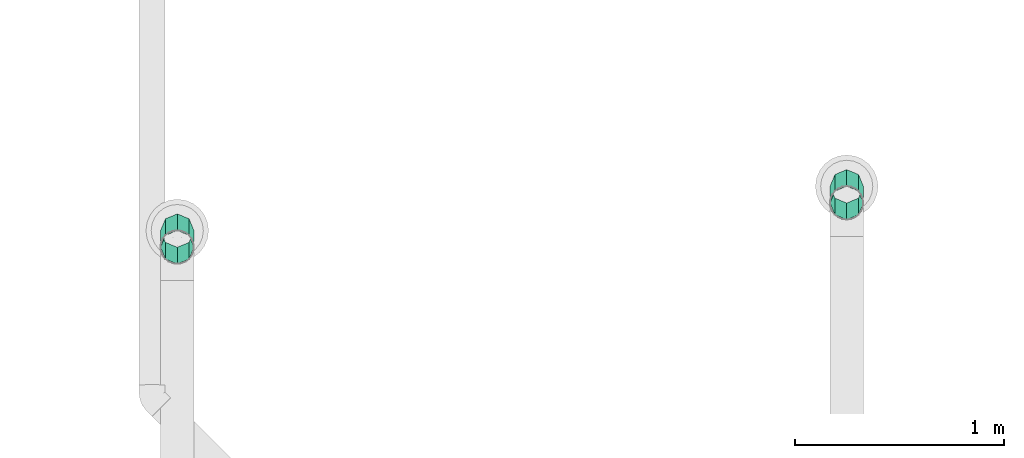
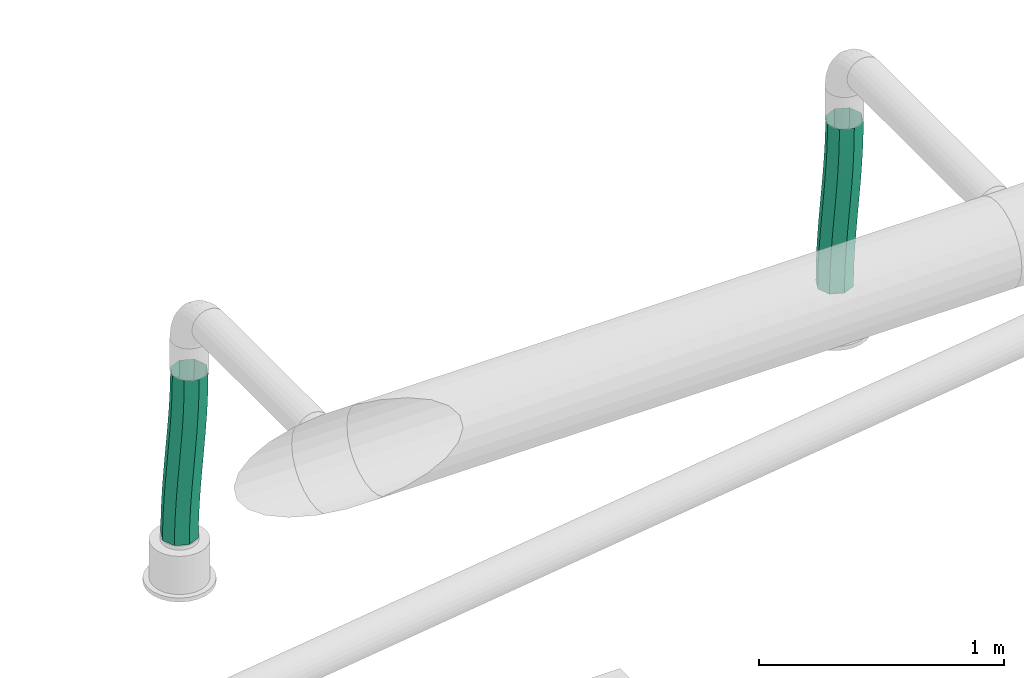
# One storey, part 307 of 374: 2 flow segments.
"""IFC2X3 building model written with IfcOpenShell, lengths in metres."""

from ifc_helpers import new_model, si_unit, direction, origin, place, context, subcontext, project, spatial, open_shell, surface_model, source, transform, mapped, element, save


model = new_model("IFC2X3")

# Units and contexts
model_context = context("Model", 3, precision=1e-05, world=origin(), true_north=direction((-0.4480736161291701, 0.8939966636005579)))
body_context = subcontext(model_context, "Body", "Model", "MODEL_VIEW")
ifc_project = project(units=[si_unit("LENGTHUNIT", "METRE"), si_unit("AREAUNIT", "SQUARE_METRE"), si_unit("VOLUMEUNIT", "CUBIC_METRE"), si_unit("PLANEANGLEUNIT", "RADIAN"), si_unit("THERMODYNAMICTEMPERATUREUNIT", "KELVIN"), si_unit("MASSUNIT", "GRAM", prefix="KILO"), si_unit("TIMEUNIT", "SECOND")], contexts=[model_context])

# Site, building, storey
site_placement = place(None, origin())
site = spatial("IfcSite", under=ifc_project, at=site_placement, Name="Site 1", CompositionType="ELEMENT")
building_placement = place(site_placement, origin())
building = spatial("IfcBuilding", under=site, at=building_placement, Name="Undefined", CompositionType="ELEMENT")
storey_placement = place(building_placement, origin())
storey = spatial("IfcBuildingStorey", under=building, at=storey_placement, Name="Rez de chauss\x8ee", CompositionType="ELEMENT", Elevation=0.0)

# Flow segments
shared_shape_1 = source(origin(), body_context, "Body", "SurfaceModel", [
    surface_model("IfcFaceBasedSurfaceModel", [(0.09425708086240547, 0.0, -3.552713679e-15), (0.05356602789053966, 0.04575228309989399, 0.0), (0.0, 0.0, 0.0), (0.03894014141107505, -0.047251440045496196, -1.150722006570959e-06), (-0.05541274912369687, -0.044041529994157, 0.0010358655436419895), (-0.01799366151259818, -0.09250640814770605, 0.0010617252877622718), (-0.11243305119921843, -0.08679099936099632, 0.002911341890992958), (-0.0762209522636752, -0.1361641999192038, 0.002975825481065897), (-0.17075715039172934, -0.12862218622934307, 0.005426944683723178), (-0.13541835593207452, -0.17862411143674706, 0.005528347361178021), (-0.23007333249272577, -0.1699145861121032, 0.008379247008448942), (-0.19526249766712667, -0.22028543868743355, 0.00850648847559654), (-0.290064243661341, -0.21105506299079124, 0.011560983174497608), (-0.25543000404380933, -0.26154747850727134, 0.011697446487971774), (-0.35040835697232, -0.25243868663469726, 0.014761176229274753), (-0.31559751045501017, -0.30280953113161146, 0.01488841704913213), (-0.4107804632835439, -0.294468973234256, 0.017765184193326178), (-0.37544165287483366, -0.3444708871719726, 0.017866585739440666), (-0.4708511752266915, -0.33755764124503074, 0.020354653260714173), (-0.43463906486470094, -0.38693083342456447, 0.020419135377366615), (-0.5302854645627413, -0.3821237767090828, 0.02230739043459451), (-0.4928663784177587, -0.43058865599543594, 0.022333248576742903), (-0.5887403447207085, -0.4285921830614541, 0.023397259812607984), (-0.5498002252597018, -0.4758436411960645, 0.023396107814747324), (-0.6458082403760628, -0.4773427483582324, 0.0233948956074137), (-0.6051172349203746, -0.5230950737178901, 0.02339489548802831), (0.0250615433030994, 0.07834277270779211, -0.04329419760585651), (-0.027779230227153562, 0.03321146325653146, -0.043293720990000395), (-0.0825619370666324, -0.010327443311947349, -0.04226904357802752), (-0.13908228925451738, -0.05270067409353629, -0.040409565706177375), (-0.19704465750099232, -0.09427143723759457, -0.037909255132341), (-0.2561421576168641, -0.13541102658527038, -0.034967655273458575), (-0.3160599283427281, -0.17650115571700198, -0.03178973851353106), (-0.3764771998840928, -0.21793513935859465, -0.028585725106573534), (-0.4370679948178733, -0.2601182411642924, -0.025571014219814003), (-0.49750043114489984, -0.30346732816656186, -0.022966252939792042), (-0.5574346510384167, -0.34840968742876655, -0.020997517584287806), (-0.616519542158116, -0.3953806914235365, -0.019896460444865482), (-0.674312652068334, -0.44475219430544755, -0.01989930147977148), (0.025441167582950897, 0.0786804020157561, -0.10452143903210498), (-0.02812485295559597, 0.032928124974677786, -0.10452143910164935), (-0.0835375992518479, -0.01111340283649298, -0.10348557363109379), (-0.14055790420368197, -0.05386287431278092, -0.10161009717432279), (-0.19888201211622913, -0.09569406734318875, -0.09909449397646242), (-0.2581982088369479, -0.1369864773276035, -0.09614219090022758), (-0.3181891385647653, -0.17812696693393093, -0.09296045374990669), (-0.37853326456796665, -0.21951059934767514, -0.08976026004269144), (-0.43890536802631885, -0.261540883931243, -0.08675625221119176), (-0.4989760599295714, -0.3046295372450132, -0.08416678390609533), (-0.5584103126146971, -0.349195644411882, -0.08221404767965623), (-0.6168651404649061, -0.39566400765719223, -0.081124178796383), (-0.6739329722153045, -0.44441451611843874, -0.08112654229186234), (0.05448252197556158, 0.04656739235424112, -0.1478156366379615), (-0.0008344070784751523, -0.0006840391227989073, -0.14781678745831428), (-0.05776820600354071, -0.045939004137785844, -0.14675391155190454), (-0.11599550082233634, -0.08959679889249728, -0.14483981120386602), (-0.17519291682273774, -0.13205671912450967, -0.1422872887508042), (-0.23503707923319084, -0.1737180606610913, -0.13930914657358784), (-0.29520461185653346, -0.21498011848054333, -0.13611818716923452), (-0.3553721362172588, -0.25624218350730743, -0.13292721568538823), (-0.41521627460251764, -0.29790353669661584, -0.12994904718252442), (-0.474413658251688, -0.3403634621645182, -0.12739649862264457), (-0.5326409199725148, -0.3840212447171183, -0.1254823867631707), (-0.5895746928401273, -0.4292761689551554, -0.1244195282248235), (-0.6448916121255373, -0.47652752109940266, -0.12442073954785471), (0.09517357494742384, 0.000815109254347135, -0.14781563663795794), (0.03810573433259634, -0.047935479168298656, -0.1478179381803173), (-0.02034911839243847, -0.09440388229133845, -0.14672805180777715), (-0.07978340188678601, -0.13896999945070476, -0.14477532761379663), (-0.13985412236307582, -0.18205864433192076, -0.14218588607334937), (-0.20022624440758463, -0.22408891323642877, -0.13918190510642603), (-0.26057037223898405, -0.26547253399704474, -0.1359817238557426), (-0.32056128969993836, -0.3066130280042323, -0.1327999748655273), (-0.37987746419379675, -0.3479054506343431, -0.12984764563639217), (-0.4382015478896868, -0.3897366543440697, -0.12733201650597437), (-0.49522183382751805, -0.4324861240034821, -0.12545652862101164), (-0.5506345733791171, -0.4765276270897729, -0.12442068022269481), (-0.604200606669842, -0.5222798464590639, -0.12442073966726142), (0.12367805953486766, -0.031775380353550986, -0.10452143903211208), (0.0658849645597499, -0.08114694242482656, -0.10452421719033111), (0.006800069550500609, -0.12811796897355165, -0.1034231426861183), (-0.053134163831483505, -0.1730603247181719, -0.10145442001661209), (-0.11356661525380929, -0.21640939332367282, -0.09884968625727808), (-0.17415741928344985, -0.25859247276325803, -0.0958350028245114), (-0.23457468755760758, -0.3000264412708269, -0.09263100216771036), (-0.29449244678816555, -0.34111657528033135, -0.08945307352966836), (-0.3535899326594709, -0.3822561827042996, -0.0865114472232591), (-0.41155229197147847, -0.42382696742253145, -0.08401111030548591), (-0.4680726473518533, -0.46620021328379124, -0.08215162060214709), (-0.5228553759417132, -0.5097391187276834, -0.08112695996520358), (-0.5756961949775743, -0.5548704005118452, -0.08112654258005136), (0.12329843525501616, -0.03211300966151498, -0.04329419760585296), (0.06623058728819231, -0.08086360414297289, -0.043296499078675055), (0.007775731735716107, -0.12733200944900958, -0.042206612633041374), (-0.051658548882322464, -0.17189812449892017, -0.04025388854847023), (-0.11172926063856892, -0.21498676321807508, -0.03766444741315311), (-0.17210136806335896, -0.257017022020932, -0.03466046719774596), (-0.23244547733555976, -0.2984006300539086, -0.03146028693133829), (-0.2924363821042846, -0.3395411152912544, -0.028278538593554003), (-0.3517525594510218, -0.38083353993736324, -0.025326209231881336), (-0.41007666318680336, -0.42266475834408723, -0.022810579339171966), (-0.46709698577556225, -0.46541425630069, -0.020935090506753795), (-0.5225097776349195, -0.5094558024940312, -0.01989924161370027), (-0.5760758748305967, -0.5552080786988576, -0.019899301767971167)], [open_shell([[[0, 1, 2]], [[2, 3, 0]], [[3, 2, 4]], [[4, 5, 3]], [[5, 4, 6]], [[6, 7, 5]], [[7, 6, 8]], [[8, 9, 7]], [[9, 8, 10]], [[10, 11, 9]], [[11, 10, 12]], [[12, 13, 11]], [[13, 12, 14]], [[14, 15, 13]], [[15, 14, 16]], [[16, 17, 15]], [[17, 16, 18]], [[18, 19, 17]], [[19, 18, 20]], [[20, 21, 19]], [[21, 20, 22]], [[22, 23, 21]], [[23, 22, 24]], [[24, 25, 23]], [[1, 26, 27]], [[27, 2, 1]], [[2, 27, 28]], [[28, 4, 2]], [[4, 28, 29]], [[29, 6, 4]], [[6, 29, 30]], [[30, 8, 6]], [[8, 30, 31]], [[31, 10, 8]], [[10, 31, 32]], [[32, 12, 10]], [[12, 32, 33]], [[33, 14, 12]], [[14, 33, 34]], [[34, 16, 14]], [[16, 34, 35]], [[35, 18, 16]], [[18, 35, 36]], [[36, 20, 18]], [[20, 36, 37]], [[37, 22, 20]], [[22, 37, 38]], [[38, 24, 22]], [[26, 39, 40]], [[40, 27, 26]], [[27, 40, 41]], [[41, 28, 27]], [[28, 41, 42]], [[42, 29, 28]], [[29, 42, 43]], [[43, 30, 29]], [[30, 43, 44]], [[44, 31, 30]], [[31, 44, 45]], [[45, 32, 31]], [[32, 45, 46]], [[46, 33, 32]], [[33, 46, 47]], [[47, 34, 33]], [[34, 47, 48]], [[48, 35, 34]], [[35, 48, 49]], [[49, 36, 35]], [[36, 49, 50]], [[50, 37, 36]], [[37, 50, 51]], [[51, 38, 37]], [[39, 52, 53]], [[53, 40, 39]], [[40, 53, 54]], [[54, 41, 40]], [[41, 54, 55]], [[55, 42, 41]], [[42, 55, 56]], [[56, 43, 42]], [[43, 56, 57]], [[57, 44, 43]], [[44, 57, 58]], [[58, 45, 44]], [[45, 58, 59]], [[59, 46, 45]], [[46, 59, 60]], [[60, 47, 46]], [[47, 60, 61]], [[61, 48, 47]], [[48, 61, 62]], [[62, 49, 48]], [[49, 62, 63]], [[63, 50, 49]], [[50, 63, 64]], [[64, 51, 50]], [[52, 65, 66]], [[66, 53, 52]], [[53, 66, 67]], [[67, 54, 53]], [[54, 67, 68]], [[68, 55, 54]], [[55, 68, 69]], [[69, 56, 55]], [[56, 69, 70]], [[70, 57, 56]], [[57, 70, 71]], [[71, 58, 57]], [[58, 71, 72]], [[72, 59, 58]], [[59, 72, 73]], [[73, 60, 59]], [[60, 73, 74]], [[74, 61, 60]], [[61, 74, 75]], [[75, 62, 61]], [[62, 75, 76]], [[76, 63, 62]], [[63, 76, 77]], [[77, 64, 63]], [[65, 78, 79]], [[79, 66, 65]], [[66, 79, 80]], [[80, 67, 66]], [[67, 80, 81]], [[81, 68, 67]], [[68, 81, 82]], [[82, 69, 68]], [[69, 82, 83]], [[83, 70, 69]], [[70, 83, 84]], [[84, 71, 70]], [[71, 84, 85]], [[85, 72, 71]], [[72, 85, 86]], [[86, 73, 72]], [[73, 86, 87]], [[87, 74, 73]], [[74, 87, 88]], [[88, 75, 74]], [[75, 88, 89]], [[89, 76, 75]], [[76, 89, 90]], [[90, 77, 76]], [[78, 91, 92]], [[92, 79, 78]], [[79, 92, 93]], [[93, 80, 79]], [[80, 93, 94]], [[94, 81, 80]], [[81, 94, 95]], [[95, 82, 81]], [[82, 95, 96]], [[96, 83, 82]], [[83, 96, 97]], [[97, 84, 83]], [[84, 97, 98]], [[98, 85, 84]], [[85, 98, 99]], [[99, 86, 85]], [[86, 99, 100]], [[100, 87, 86]], [[87, 100, 101]], [[101, 88, 87]], [[88, 101, 102]], [[102, 89, 88]], [[89, 102, 103]], [[103, 90, 89]], [[91, 0, 3]], [[3, 92, 91]], [[92, 3, 5]], [[5, 93, 92]], [[93, 5, 7]], [[7, 94, 93]], [[94, 7, 9]], [[9, 95, 94]], [[95, 9, 11]], [[11, 96, 95]], [[96, 11, 13]], [[13, 97, 96]], [[97, 13, 15]], [[15, 98, 97]], [[98, 15, 17]], [[17, 99, 98]], [[99, 17, 19]], [[19, 100, 99]], [[100, 19, 21]], [[21, 101, 100]], [[101, 21, 23]], [[23, 102, 101]], [[102, 23, 25]], [[25, 103, 102]]])]),
])
flow_segment_1_placement = place(storey_placement, origin())
element("IfcFlowSegment", 1, at=flow_segment_1_placement, inside=storey, Name="Tube flexible", ObjectType="Tube flexible", context=body_context, shape_type="MappedRepresentation", body=[
    mapped(shared_shape_1, transform((38.23672092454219, 21.844983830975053, 3.4095708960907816), x_axis=(-0.2485909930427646, -0.6163532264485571, 0.7472022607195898), y_axis=(0.2910462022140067, 0.6882384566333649, 0.6645449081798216), z_axis=(-0.9238477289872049, 0.38267025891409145, 0.008297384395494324))),
])
shared_shape_2 = source(origin(), body_context, "Body", "SurfaceModel", [
    surface_model("IfcFaceBasedSurfaceModel", [(0.09425708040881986, -3.552713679e-15, 3.552713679e-15), (0.05356602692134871, 0.04575228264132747, -3.552713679e-15), (0.0, 0.0, 0.0), (0.03894014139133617, -0.04725144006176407, -1.150730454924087e-06), (-0.05541274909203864, -0.04404152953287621, 0.0010358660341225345), (-0.01799366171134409, -0.09250640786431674, 0.0010617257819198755), (-0.11243305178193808, -0.0867909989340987, 0.0029113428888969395), (-0.07622095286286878, -0.13616419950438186, 0.0029758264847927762), (-0.1707571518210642, -0.12862218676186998, 0.005426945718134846), (-0.13541835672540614, -0.17862411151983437, 0.005528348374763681), (-0.23007333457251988, -0.16991458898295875, 0.008379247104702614), (-0.19526249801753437, -0.22028544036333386, 0.008506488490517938), (-0.2900642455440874, -0.21105506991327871, 0.011560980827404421), (-0.2554300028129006, -0.2615474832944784, 0.01169744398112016), (-0.3504083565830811, -0.25243869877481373, 0.014761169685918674), (-0.31559750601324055, -0.3028095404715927, 0.014888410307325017), (-0.4107804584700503, -0.29446898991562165, 0.017765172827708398), (-0.3754416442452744, -0.3444709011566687, 0.017866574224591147), (-0.47085116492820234, -0.33755766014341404, 0.020354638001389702), (-0.4346390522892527, -0.386930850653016, 0.020419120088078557), (-0.5302854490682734, -0.3821237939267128, 0.02230737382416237), (-0.4928663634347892, -0.4305886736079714, 0.022333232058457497), (-0.5887403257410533, -0.42859219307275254, 0.023397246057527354), (-0.549800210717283, -0.4758436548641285, 0.023396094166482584), (-0.645808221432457, -0.4773427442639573, 0.02339489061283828), (-0.6051172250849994, -0.5230950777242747, 0.023394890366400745), (0.025061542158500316, 0.07834277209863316, -0.043294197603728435), (-0.027779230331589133, 0.03321146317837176, -0.04329372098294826), (-0.08256193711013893, -0.01032744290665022, -0.04226904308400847), (-0.1390822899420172, -0.05270067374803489, -0.04040956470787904), (-0.19704465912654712, -0.0942714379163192, -0.037909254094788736), (-0.25614216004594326, -0.13541102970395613, -0.03496765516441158), (-0.3160599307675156, -0.1765011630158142, -0.031789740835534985), (-0.3764772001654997, -0.21793515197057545, -0.02858573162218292), (-0.43706799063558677, -0.260118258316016, -0.02557102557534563), (-0.49750042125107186, -0.30346734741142, -0.022966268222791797), (-0.5574346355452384, -0.34840970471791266, -0.020997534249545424), (-0.616519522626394, -0.39538070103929, -0.01989647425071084), (-0.6743126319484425, -0.44475218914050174, -0.01989930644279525), (0.025441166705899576, 0.07868040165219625, -0.10452143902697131), (-0.028124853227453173, 0.03292812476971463, -0.104521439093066), (-0.0835375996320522, -0.01111340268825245, -0.10348557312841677), (-0.14055790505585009, -0.053862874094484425, -0.10161009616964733), (-0.1988820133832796, -0.09569406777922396, -0.0990944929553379), (-0.2581982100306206, -0.13698647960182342, -0.09614219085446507), (-0.31818913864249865, -0.1781269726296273, -0.09296045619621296), (-0.3785332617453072, -0.2195106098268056, -0.08976026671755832), (-0.43890536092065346, -0.2615408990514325, -0.08675626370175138), (-0.49897604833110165, -0.3046295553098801, -0.08416679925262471), (-0.5584102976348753, -0.34919566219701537, -0.08221406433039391), (-0.6168651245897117, -0.39566402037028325, -0.08112419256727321), (-0.6739329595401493, -0.44441451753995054, -0.08112654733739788), (0.05448252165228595, 0.046567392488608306, -0.14781563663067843), (-0.0008344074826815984, -0.0006840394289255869, -0.1478167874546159), (-0.05776820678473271, -0.04593900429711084, -0.1467539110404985), (-0.11599550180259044, -0.08959679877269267, -0.14483981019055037), (-0.1751929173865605, -0.13205671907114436, -0.14228728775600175), (-0.23503707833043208, -0.17371806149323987, -0.13930914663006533), (-0.2952046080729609, -0.214980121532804, -0.13611818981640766), (-0.3553721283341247, -0.2562421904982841, -0.13292722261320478), (-0.41521626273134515, -0.2979035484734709, -0.1299490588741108), (-0.4744136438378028, -0.34036347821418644, -0.1273965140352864), (-0.532640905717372, -0.3840212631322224, -0.1254824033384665), (-0.5895746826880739, -0.4292761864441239, -0.12441954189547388), (-0.6448916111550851, -0.4765275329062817, -0.1244207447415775), (0.09517357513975, 0.0008151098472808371, -0.14781563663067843), (0.03810573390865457, -0.04793547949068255, -0.14781793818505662), (-0.020349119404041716, -0.09440388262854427, -0.14672805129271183), (-0.07978340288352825, -0.13896999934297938, -0.14477532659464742), (-0.13985412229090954, -0.1820586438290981, -0.14218588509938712), (-0.20022624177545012, -0.224088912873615, -0.13918190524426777), (-0.2605703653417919, -0.2654725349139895, -0.1359817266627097), (-0.32056127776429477, -0.3066130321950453, -0.1327999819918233), (-0.3798774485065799, -0.34790545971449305, -0.12984765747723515), (-0.43820153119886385, -0.3897366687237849, -0.12733203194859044), (-0.4952218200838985, -0.43248614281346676, -0.1254565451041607), (-0.5506345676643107, -0.4765276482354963, -0.12442069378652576), (-0.6042006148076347, -0.5222798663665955, -0.12442074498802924), (0.12367805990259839, -0.031775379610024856, -0.10452143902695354), (0.0658849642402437, -0.08114694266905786, -0.10452421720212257), (0.006800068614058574, -0.12811796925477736, -0.10342314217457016), (-0.05313416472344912, -0.17306032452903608, -0.10145441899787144), (-0.11356661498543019, -0.21640939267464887, -0.09884968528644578), (-0.1741574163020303, -0.2585924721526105, -0.09583500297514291), (-0.23457468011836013, -0.300026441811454, -0.09263100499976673), (-0.29449243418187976, -0.34111657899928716, -0.0894530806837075), (-0.35358991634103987, -0.3822561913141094, -0.08651145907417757), (-0.4115522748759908, -0.42382698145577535, -0.0840111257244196), (-0.4680726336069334, -0.4662002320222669, -0.08215163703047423), (-0.5228553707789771, -0.5097391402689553, -0.08112697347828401), (-0.5756962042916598, -0.5548704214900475, -0.08112654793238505), (0.12329843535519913, -0.0321130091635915, -0.04329419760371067), (0.0662305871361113, -0.08086360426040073, -0.04329649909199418), (0.007775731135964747, -0.12733200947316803, -0.04220661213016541), (-0.0516585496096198, -0.17189812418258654, -0.04025388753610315), (-0.11172926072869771, -0.21498676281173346, -0.03766444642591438), (-0.17210136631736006, -0.25701702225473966, -0.03466046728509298), (-0.2324454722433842, -0.29840063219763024, -0.031460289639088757), (-0.2924363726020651, -0.33954112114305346, -0.02827854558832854), (-0.35175254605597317, -0.38083355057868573, -0.025326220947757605), (-0.41007664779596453, -0.4226647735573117, -0.022810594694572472), (-0.467096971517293, -0.46541427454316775, -0.020935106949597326), (-0.5225097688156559, -0.509455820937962, -0.01989925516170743), (-0.576075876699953, -0.5552080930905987, -0.019899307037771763)], [open_shell([[[0, 1, 2]], [[2, 3, 0]], [[3, 2, 4]], [[4, 5, 3]], [[5, 4, 6]], [[6, 7, 5]], [[7, 6, 8]], [[8, 9, 7]], [[9, 8, 10]], [[10, 11, 9]], [[11, 10, 12]], [[12, 13, 11]], [[13, 12, 14]], [[14, 15, 13]], [[15, 14, 16]], [[16, 17, 15]], [[17, 16, 18]], [[18, 19, 17]], [[19, 18, 20]], [[20, 21, 19]], [[21, 20, 22]], [[22, 23, 21]], [[23, 22, 24]], [[24, 25, 23]], [[1, 26, 27]], [[27, 2, 1]], [[2, 27, 28]], [[28, 4, 2]], [[4, 28, 29]], [[29, 6, 4]], [[6, 29, 30]], [[30, 8, 6]], [[8, 30, 31]], [[31, 10, 8]], [[10, 31, 32]], [[32, 12, 10]], [[12, 32, 33]], [[33, 14, 12]], [[14, 33, 34]], [[34, 16, 14]], [[16, 34, 35]], [[35, 18, 16]], [[18, 35, 36]], [[36, 20, 18]], [[20, 36, 37]], [[37, 22, 20]], [[22, 37, 38]], [[38, 24, 22]], [[26, 39, 40]], [[40, 27, 26]], [[27, 40, 41]], [[41, 28, 27]], [[28, 41, 42]], [[42, 29, 28]], [[29, 42, 43]], [[43, 30, 29]], [[30, 43, 44]], [[44, 31, 30]], [[31, 44, 45]], [[45, 32, 31]], [[32, 45, 46]], [[46, 33, 32]], [[33, 46, 47]], [[47, 34, 33]], [[34, 47, 48]], [[48, 35, 34]], [[35, 48, 49]], [[49, 36, 35]], [[36, 49, 50]], [[50, 37, 36]], [[37, 50, 51]], [[51, 38, 37]], [[39, 52, 53]], [[53, 40, 39]], [[40, 53, 54]], [[54, 41, 40]], [[41, 54, 55]], [[55, 42, 41]], [[42, 55, 56]], [[56, 43, 42]], [[43, 56, 57]], [[57, 44, 43]], [[44, 57, 58]], [[58, 45, 44]], [[45, 58, 59]], [[59, 46, 45]], [[46, 59, 60]], [[60, 47, 46]], [[47, 60, 61]], [[61, 48, 47]], [[48, 61, 62]], [[62, 49, 48]], [[49, 62, 63]], [[63, 50, 49]], [[50, 63, 64]], [[64, 51, 50]], [[52, 65, 66]], [[66, 53, 52]], [[53, 66, 67]], [[67, 54, 53]], [[54, 67, 68]], [[68, 55, 54]], [[55, 68, 69]], [[69, 56, 55]], [[56, 69, 70]], [[70, 57, 56]], [[57, 70, 71]], [[71, 58, 57]], [[58, 71, 72]], [[72, 59, 58]], [[59, 72, 73]], [[73, 60, 59]], [[60, 73, 74]], [[74, 61, 60]], [[61, 74, 75]], [[75, 62, 61]], [[62, 75, 76]], [[76, 63, 62]], [[63, 76, 77]], [[77, 64, 63]], [[65, 78, 79]], [[79, 66, 65]], [[66, 79, 80]], [[80, 67, 66]], [[67, 80, 81]], [[81, 68, 67]], [[68, 81, 82]], [[82, 69, 68]], [[69, 82, 83]], [[83, 70, 69]], [[70, 83, 84]], [[84, 71, 70]], [[71, 84, 85]], [[85, 72, 71]], [[72, 85, 86]], [[86, 73, 72]], [[73, 86, 87]], [[87, 74, 73]], [[74, 87, 88]], [[88, 75, 74]], [[75, 88, 89]], [[89, 76, 75]], [[76, 89, 90]], [[90, 77, 76]], [[78, 91, 92]], [[92, 79, 78]], [[79, 92, 93]], [[93, 80, 79]], [[80, 93, 94]], [[94, 81, 80]], [[81, 94, 95]], [[95, 82, 81]], [[82, 95, 96]], [[96, 83, 82]], [[83, 96, 97]], [[97, 84, 83]], [[84, 97, 98]], [[98, 85, 84]], [[85, 98, 99]], [[99, 86, 85]], [[86, 99, 100]], [[100, 87, 86]], [[87, 100, 101]], [[101, 88, 87]], [[88, 101, 102]], [[102, 89, 88]], [[89, 102, 103]], [[103, 90, 89]], [[91, 0, 3]], [[3, 92, 91]], [[92, 3, 5]], [[5, 93, 92]], [[93, 5, 7]], [[7, 94, 93]], [[94, 7, 9]], [[9, 95, 94]], [[95, 9, 11]], [[11, 96, 95]], [[96, 11, 13]], [[13, 97, 96]], [[97, 13, 15]], [[15, 98, 97]], [[98, 15, 17]], [[17, 99, 98]], [[99, 17, 19]], [[19, 100, 99]], [[100, 19, 21]], [[21, 101, 100]], [[101, 21, 23]], [[23, 102, 101]], [[102, 23, 25]], [[25, 103, 102]]])]),
])
flow_segment_2_placement = place(storey_placement, origin())
element("IfcFlowSegment", 2, at=flow_segment_2_placement, inside=storey, Name="Tube flexible", ObjectType="Tube flexible", context=body_context, shape_type="MappedRepresentation", body=[
    mapped(shared_shape_2, transform((41.444615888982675, 22.057009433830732, 3.4095708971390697), x_axis=(-0.24859099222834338, -0.6163532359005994, 0.7472022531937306), y_axis=(0.29104620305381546, 0.688238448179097, 0.664544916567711), z_axis=(-0.9238477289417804, 0.3826702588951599, 0.008297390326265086))),
])

save(model, "model.ifc")
